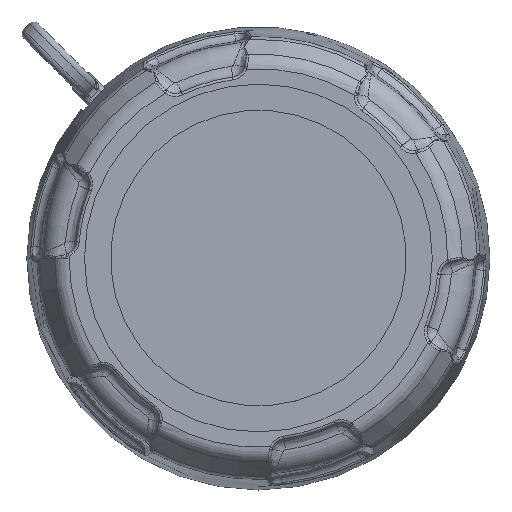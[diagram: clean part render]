
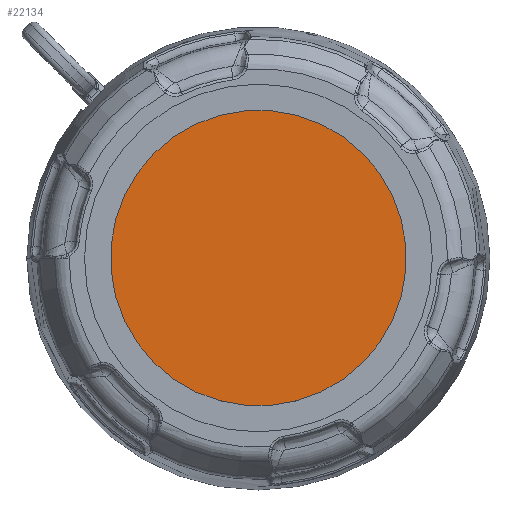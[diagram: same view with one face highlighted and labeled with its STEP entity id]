
A CAD part, top view. The second image highlights one B-rep face of the part: STEP entity #22134.
In plain terms, the highlighted planar face has unit normal (0, 0, 1).
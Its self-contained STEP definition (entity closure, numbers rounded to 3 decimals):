
#6811=CARTESIAN_POINT('',(0.,0.,38.625));
#6812=DIRECTION('',(0.,0.,-1.));
#6813=DIRECTION('',(-0.966,-0.259,0.));
#6814=AXIS2_PLACEMENT_3D('',#6811,#6812,#6813);
#6819=CARTESIAN_POINT('',(0.,0.,38.625));
#6820=DIRECTION('',(0.,0.,-1.));
#6821=DIRECTION('',(0.966,0.259,0.));
#6822=AXIS2_PLACEMENT_3D('',#6819,#6820,#6821);
#11822=CARTESIAN_POINT('',(24.631,6.6,38.625));
#11823=VERTEX_POINT('',#11822);
#11824=CARTESIAN_POINT('',(-24.631,-6.6,38.625));
#11825=VERTEX_POINT('',#11824);
#22125=CARTESIAN_POINT('',(0.,0.,38.625));
#22126=DIRECTION('',(0.,0.,1.));
#22127=DIRECTION('',(0.259,-0.966,0.));
#22128=AXIS2_PLACEMENT_3D('',#22125,#22126,#22127);
#22129=PLANE('',#22128);
#22130=ORIENTED_EDGE('',*,*,#22105,.T.);
#22131=ORIENTED_EDGE('',*,*,#22119,.T.);
#22132=EDGE_LOOP('',(#22130,#22131));
#22133=FACE_OUTER_BOUND('',#22132,.F.);
#6815=CIRCLE('',#6814,25.5);
#6823=CIRCLE('',#6822,25.5);
#22105=EDGE_CURVE('',#11825,#11823,#6815,.T.);
#22119=EDGE_CURVE('',#11823,#11825,#6823,.T.);
#22134=ADVANCED_FACE('',(#22133),#22129,.T.);
